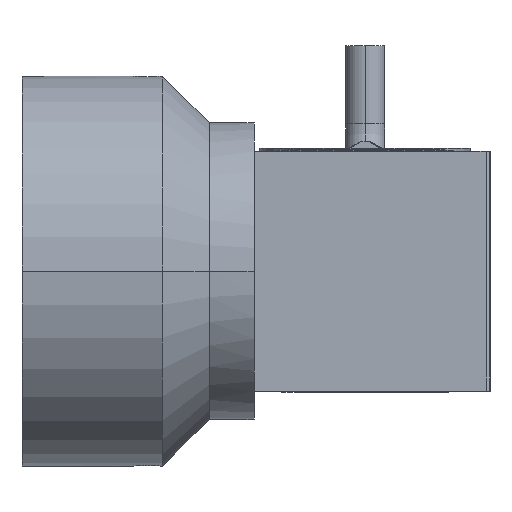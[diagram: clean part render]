
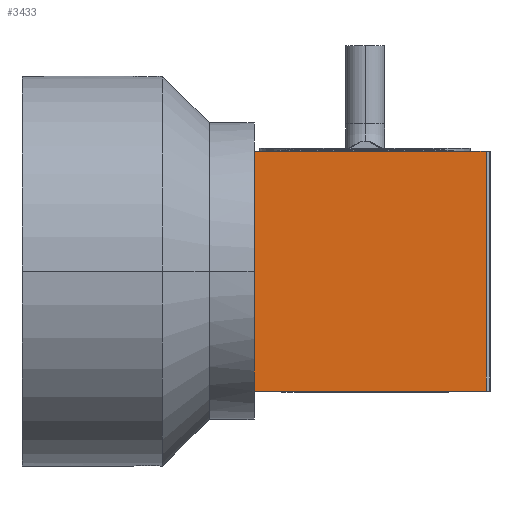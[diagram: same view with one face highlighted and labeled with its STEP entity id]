
A CAD part, left-side view. The second image highlights one B-rep face of the part: STEP entity #3433.
In plain terms, the highlighted planar face has unit normal (-1, 0, 0).
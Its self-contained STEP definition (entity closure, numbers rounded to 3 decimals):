
#306=DIRECTION('',(0.,0.,-1.));
#307=VECTOR('',#306,4.11);
#308=CARTESIAN_POINT('',(-66.675,15.115,-11.255));
#309=LINE('',#308,#307);
#314=DIRECTION('',(0.,0.,1.));
#315=VECTOR('',#314,22.509);
#316=CARTESIAN_POINT('',(-66.675,15.115,-11.255));
#317=LINE('',#316,#315);
#318=DIRECTION('',(0.,-1.,0.));
#319=VECTOR('',#318,29.72);
#320=CARTESIAN_POINT('',(-66.675,15.115,15.365));
#321=LINE('',#320,#319);
#322=DIRECTION('',(0.,0.,1.));
#323=VECTOR('',#322,30.73);
#324=CARTESIAN_POINT('',(-66.675,-14.605,-15.365));
#325=LINE('',#324,#323);
#354=DIRECTION('',(0.,0.,-1.));
#355=VECTOR('',#354,4.11);
#356=CARTESIAN_POINT('',(-66.675,15.115,15.365));
#357=LINE('',#356,#355);
#1070=DIRECTION('',(0.,-1.,0.));
#1071=VECTOR('',#1070,29.72);
#1072=CARTESIAN_POINT('',(-66.675,15.115,-15.365));
#1073=LINE('',#1072,#1071);
#2723=CARTESIAN_POINT('',(-66.675,-14.605,-15.365));
#2724=CARTESIAN_POINT('',(-66.675,-14.605,15.365));
#2725=VERTEX_POINT('',#2723);
#2726=VERTEX_POINT('',#2724);
#2731=CARTESIAN_POINT('',(-66.675,15.115,-15.365));
#2732=VERTEX_POINT('',#2731);
#2733=CARTESIAN_POINT('',(-66.675,15.115,15.365));
#2734=VERTEX_POINT('',#2733);
#3009=CARTESIAN_POINT('',(-66.675,15.115,-11.255));
#3011=VERTEX_POINT('',#3009);
#3020=CARTESIAN_POINT('',(-66.675,15.115,11.255));
#3022=VERTEX_POINT('',#3020);
#3416=CARTESIAN_POINT('',(-66.675,-15.115,-15.365));
#3417=DIRECTION('',(-1.,0.,0.));
#3418=DIRECTION('',(0.,0.,1.));
#3419=AXIS2_PLACEMENT_3D('',#3416,#3417,#3418);
#3420=PLANE('',#3419);
#3422=ORIENTED_EDGE('',*,*,#3421,.T.);
#3424=ORIENTED_EDGE('',*,*,#3423,.F.);
#3425=ORIENTED_EDGE('',*,*,#3315,.T.);
#3427=ORIENTED_EDGE('',*,*,#3426,.F.);
#3429=ORIENTED_EDGE('',*,*,#3428,.F.);
#3430=ORIENTED_EDGE('',*,*,#3409,.F.);
#3431=EDGE_LOOP('',(#3422,#3424,#3425,#3427,#3429,#3430));
#3432=FACE_OUTER_BOUND('',#3431,.F.);
#3433=ADVANCED_FACE('',(#3432),#3420,.T.);
#3315=EDGE_CURVE('',#2734,#2726,#321,.T.);
#3409=EDGE_CURVE('',#3011,#2732,#309,.T.);
#3421=EDGE_CURVE('',#3011,#3022,#317,.T.);
#3423=EDGE_CURVE('',#2734,#3022,#357,.T.);
#3426=EDGE_CURVE('',#2725,#2726,#325,.T.);
#3428=EDGE_CURVE('',#2732,#2725,#1073,.T.);
